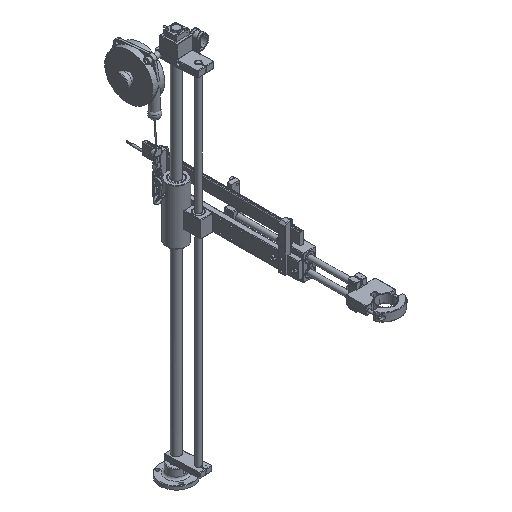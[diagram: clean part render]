
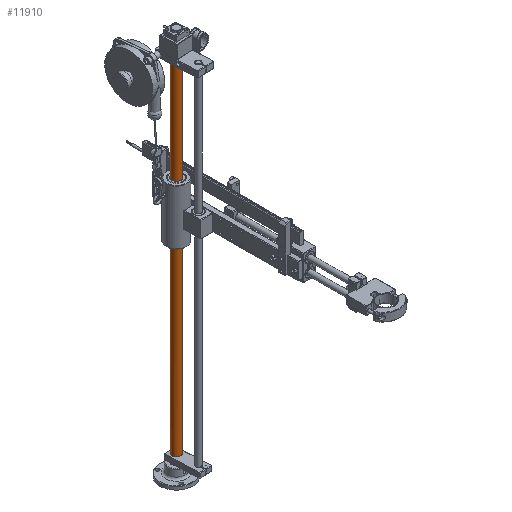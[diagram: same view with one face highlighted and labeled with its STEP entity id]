
A CAD part, isometric view. The second image highlights one B-rep face of the part: STEP entity #11910.
In plain terms, the highlighted cylindrical face has radius 10 mm (diameter 20 mm), a full revolution.
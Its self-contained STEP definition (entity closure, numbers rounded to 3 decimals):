
#11910 = ADVANCED_FACE( '', ( #19132, #19133 ), #19134, .T. );
#19132 = FACE_OUTER_BOUND( '', #30078, .T. );
#19133 = FACE_OUTER_BOUND( '', #30079, .T. );
#19134 = CYLINDRICAL_SURFACE( '', #30080, 10. );
#30078 = EDGE_LOOP( '', ( #34200, #34201, #34202, #34203 ) );
#30079 = EDGE_LOOP( '', ( #34204 ) );
#30080 = AXIS2_PLACEMENT_3D( '', #34205, #34206, #34207 );
#34200 = ORIENTED_EDGE( '', *, *, #40325, .F. );
#34201 = ORIENTED_EDGE( '', *, *, #40324, .T. );
#34202 = ORIENTED_EDGE( '', *, *, #40326, .F. );
#34203 = ORIENTED_EDGE( '', *, *, #40303, .T. );
#34204 = ORIENTED_EDGE( '', *, *, #40327, .T. );
#34205 = CARTESIAN_POINT( '', ( 0., 0., 900. ) );
#34206 = DIRECTION( '', ( 0., 0., 1. ) );
#34207 = DIRECTION( '', ( -1., 0., 0. ) );
#40303 = EDGE_CURVE( '', #47792, #47789, #47793, .T. );
#40324 = EDGE_CURVE( '', #47826, #47827, #47829, .F. );
#40325 = EDGE_CURVE( '', #47826, #47789, #47830, .F. );
#40326 = EDGE_CURVE( '', #47792, #47827, #47831, .T. );
#40327 = EDGE_CURVE( '', #47832, #47832, #47833, .T. );
#47789 = VERTEX_POINT( '', #52362 );
#47792 = VERTEX_POINT( '', #52374 );
#47793 = CIRCLE( '', #52375, 10. );
#47826 = VERTEX_POINT( '', #52421 );
#47827 = VERTEX_POINT( '', #52422 );
#47829 = CIRCLE( '', #52425, 10. );
#47830 = LINE( '', #52426, #52427 );
#47831 = LINE( '', #52428, #52429 );
#47832 = VERTEX_POINT( '', #52430 );
#47833 = CIRCLE( '', #52431, 10. );
#52362 = CARTESIAN_POINT( '', ( -9., -4.359, 899. ) );
#52374 = CARTESIAN_POINT( '', ( -9., 4.359, 899. ) );
#52375 = AXIS2_PLACEMENT_3D( '', #54690, #54691, #54692 );
#52421 = CARTESIAN_POINT( '', ( -9., -4.359, 875. ) );
#52422 = CARTESIAN_POINT( '', ( -9., 4.359, 875. ) );
#52425 = AXIS2_PLACEMENT_3D( '', #54732, #54733, #54734 );
#52426 = CARTESIAN_POINT( '', ( -9., -4.359, 900. ) );
#52427 = VECTOR( '', #54735, 1000. );
#52428 = CARTESIAN_POINT( '', ( -9., 4.359, 900. ) );
#52429 = VECTOR( '', #54736, 1000. );
#52430 = CARTESIAN_POINT( '', ( -10., 0., 35. ) );
#52431 = AXIS2_PLACEMENT_3D( '', #54737, #54738, #54739 );
#54690 = CARTESIAN_POINT( '', ( 0., 0., 899. ) );
#54691 = DIRECTION( '', ( 0., 0., -1. ) );
#54692 = DIRECTION( '', ( -1., 0., 0. ) );
#54732 = CARTESIAN_POINT( '', ( 0., 0., 875. ) );
#54733 = DIRECTION( '', ( 0., 0., 1. ) );
#54734 = DIRECTION( '', ( 1., 0., 0. ) );
#54735 = DIRECTION( '', ( 0., 0., -1. ) );
#54736 = DIRECTION( '', ( 0., 0., -1. ) );
#54737 = CARTESIAN_POINT( '', ( 0., 0., 35. ) );
#54738 = DIRECTION( '', ( 0., 0., 1. ) );
#54739 = DIRECTION( '', ( -1., 0., 0. ) );
